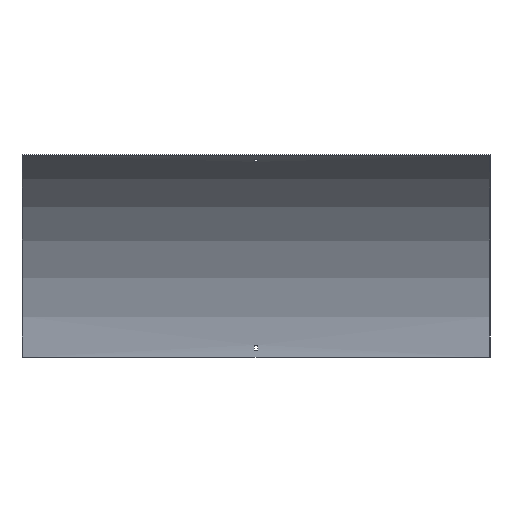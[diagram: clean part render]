
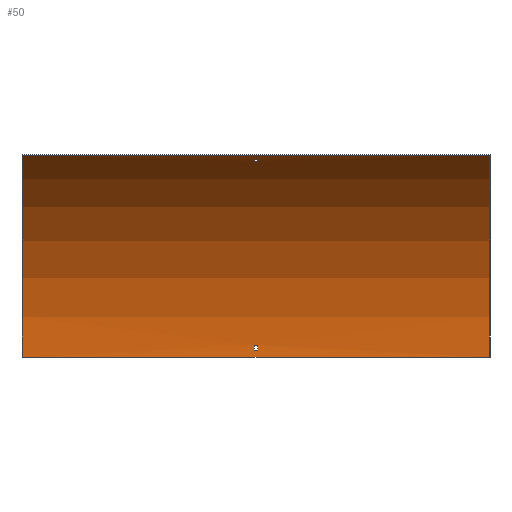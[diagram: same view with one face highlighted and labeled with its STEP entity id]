
A CAD part, front view. The second image highlights one B-rep face of the part: STEP entity #50.
In plain terms, the highlighted cylindrical face has radius 400 mm (diameter 800 mm), a partial arc.
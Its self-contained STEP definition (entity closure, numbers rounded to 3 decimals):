
#2 = AXIS2_PLACEMENT_3D ( 'NONE', #455, #458, #226 ) ;
#5 = VERTEX_POINT ( 'NONE', #153 ) ;
#8 = DIRECTION ( 'NONE',  ( -1., 0., 0. ) ) ;
#13 = VERTEX_POINT ( 'NONE', #302 ) ;
#50 = ADVANCED_FACE ( 'NONE', ( #407, #321, #448 ), #118, .F. ) ;
#59 = VERTEX_POINT ( 'NONE', #81 ) ;
#70 = DIRECTION ( 'NONE',  ( -1., 0., 0. ) ) ;
#71 = CARTESIAN_POINT ( 'NONE',  ( 400., -401.5, 0. ) ) ;
#77 = EDGE_CURVE ( 'NONE', #473, #381, #465, .T. ) ;
#79 = CARTESIAN_POINT ( 'NONE',  ( 401.5, -2.052, 21. ) ) ;
#80 = DIRECTION ( 'NONE',  ( 0., 0., -1. ) ) ;
#81 = CARTESIAN_POINT ( 'NONE',  ( 3.25, -2.052, 21. ) ) ;
#83 = CARTESIAN_POINT ( 'NONE',  ( 3.25, -183.589, 335.432 ) ) ;
#86 = DIRECTION ( 'NONE',  ( -1., 0., 0. ) ) ;
#89 = VERTEX_POINT ( 'NONE', #605 ) ;
#93 = ORIENTED_EDGE ( 'NONE', *, *, #300, .F. ) ;
#101 = DIRECTION ( 'NONE',  ( 0., 0., -1. ) ) ;
#104 = CARTESIAN_POINT ( 'NONE',  ( -3.25, -401.5, 0. ) ) ;
#110 = AXIS2_PLACEMENT_3D ( 'NONE', #71, #254, #80 ) ;
#112 = ORIENTED_EDGE ( 'NONE', *, *, #364, .F. ) ;
#114 = DIRECTION ( 'NONE',  ( 1., 0., 0. ) ) ;
#117 = DIRECTION ( 'NONE',  ( 1., 0., 0. ) ) ;
#118 = CYLINDRICAL_SURFACE ( 'NONE', #2, 400. ) ;
#121 = CARTESIAN_POINT ( 'NONE',  ( 401.5, -191.198, 340.254 ) ) ;
#131 = VERTEX_POINT ( 'NONE', #557 ) ;
#132 = CARTESIAN_POINT ( 'NONE',  ( 401.5, -183.589, 335.432 ) ) ;
#134 = EDGE_CURVE ( 'NONE', #59, #512, #316, .T. ) ;
#140 = EDGE_LOOP ( 'NONE', ( #430, #202, #326, #481 ) ) ;
#142 = CARTESIAN_POINT ( 'NONE',  ( 3.25, -401.5, 0. ) ) ;
#143 = ORIENTED_EDGE ( 'NONE', *, *, #208, .F. ) ;
#147 = VECTOR ( 'NONE', #70, 1000. ) ;
#153 = CARTESIAN_POINT ( 'NONE',  ( 3.25, -191.198, 340.254 ) ) ;
#161 = EDGE_CURVE ( 'NONE', #512, #236, #456, .T. ) ;
#162 = CARTESIAN_POINT ( 'NONE',  ( 400., -201.5, 346.41 ) ) ;
#168 = VECTOR ( 'NONE', #8, 1000. ) ;
#190 = EDGE_LOOP ( 'NONE', ( #581, #143, #287, #195 ) ) ;
#195 = ORIENTED_EDGE ( 'NONE', *, *, #536, .T. ) ;
#196 = DIRECTION ( 'NONE',  ( -1., 0., 0. ) ) ;
#202 = ORIENTED_EDGE ( 'NONE', *, *, #77, .T. ) ;
#208 = EDGE_CURVE ( 'NONE', #131, #13, #593, .T. ) ;
#216 = CARTESIAN_POINT ( 'NONE',  ( -3.25, -183.589, 335.432 ) ) ;
#224 = CARTESIAN_POINT ( 'NONE',  ( -3.25, -191.198, 340.254 ) ) ;
#225 = AXIS2_PLACEMENT_3D ( 'NONE', #142, #335, #524 ) ;
#226 = DIRECTION ( 'NONE',  ( 0., 0., 1. ) ) ;
#236 = VERTEX_POINT ( 'NONE', #552 ) ;
#249 = CIRCLE ( 'NONE', #110, 400. ) ;
#253 = LINE ( 'NONE', #577, #352 ) ;
#254 = DIRECTION ( 'NONE',  ( 1., 0., 0. ) ) ;
#265 = CARTESIAN_POINT ( 'NONE',  ( 401.5, -1.68, 12. ) ) ;
#268 = VECTOR ( 'NONE', #117, 1000. ) ;
#287 = ORIENTED_EDGE ( 'NONE', *, *, #442, .T. ) ;
#290 = DIRECTION ( 'NONE',  ( 1., 0., 0. ) ) ;
#299 = DIRECTION ( 'NONE',  ( -1., 0., 0. ) ) ;
#300 = EDGE_CURVE ( 'NONE', #89, #59, #311, .T. ) ;
#301 = AXIS2_PLACEMENT_3D ( 'NONE', #596, #325, #452 ) ;
#302 = CARTESIAN_POINT ( 'NONE',  ( -400., -1.5, 0. ) ) ;
#303 = VECTOR ( 'NONE', #86, 1000. ) ;
#311 = CIRCLE ( 'NONE', #387, 400. ) ;
#316 = LINE ( 'NONE', #79, #168 ) ;
#321 = FACE_OUTER_BOUND ( 'NONE', #190, .T. ) ;
#323 = CIRCLE ( 'NONE', #399, 400. ) ;
#325 = DIRECTION ( 'NONE',  ( 1., 0., 0. ) ) ;
#326 = ORIENTED_EDGE ( 'NONE', *, *, #415, .T. ) ;
#334 = LINE ( 'NONE', #132, #303 ) ;
#335 = DIRECTION ( 'NONE',  ( -1., 0., 0. ) ) ;
#339 = ORIENTED_EDGE ( 'NONE', *, *, #161, .F. ) ;
#348 = EDGE_CURVE ( 'NONE', #5, #487, #568, .T. ) ;
#352 = VECTOR ( 'NONE', #299, 1000. ) ;
#355 = VERTEX_POINT ( 'NONE', #538 ) ;
#356 = LINE ( 'NONE', #265, #268 ) ;
#364 = EDGE_CURVE ( 'NONE', #236, #89, #356, .T. ) ;
#377 = EDGE_LOOP ( 'NONE', ( #339, #546, #93, #112 ) ) ;
#378 = DIRECTION ( 'NONE',  ( 0., 0., 1. ) ) ;
#379 = CARTESIAN_POINT ( 'NONE',  ( -3.25, -2.052, 21. ) ) ;
#381 = VERTEX_POINT ( 'NONE', #224 ) ;
#387 = AXIS2_PLACEMENT_3D ( 'NONE', #579, #290, #390 ) ;
#390 = DIRECTION ( 'NONE',  ( 0., 0., -1. ) ) ;
#399 = AXIS2_PLACEMENT_3D ( 'NONE', #479, #584, #101 ) ;
#407 = FACE_BOUND ( 'NONE', #377, .T. ) ;
#415 = EDGE_CURVE ( 'NONE', #381, #5, #507, .T. ) ;
#430 = ORIENTED_EDGE ( 'NONE', *, *, #515, .T. ) ;
#442 = EDGE_CURVE ( 'NONE', #131, #572, #249, .T. ) ;
#448 = FACE_BOUND ( 'NONE', #140, .T. ) ;
#452 = DIRECTION ( 'NONE',  ( 0., 1., 0. ) ) ;
#455 = CARTESIAN_POINT ( 'NONE',  ( 401.5, -401.5, 0. ) ) ;
#456 = CIRCLE ( 'NONE', #527, 400. ) ;
#458 = DIRECTION ( 'NONE',  ( -1., 0., 0. ) ) ;
#465 = CIRCLE ( 'NONE', #301, 400. ) ;
#473 = VERTEX_POINT ( 'NONE', #216 ) ;
#479 = CARTESIAN_POINT ( 'NONE',  ( -400., -401.5, 0. ) ) ;
#481 = ORIENTED_EDGE ( 'NONE', *, *, #348, .T. ) ;
#487 = VERTEX_POINT ( 'NONE', #83 ) ;
#503 = VECTOR ( 'NONE', #114, 1000. ) ;
#507 = LINE ( 'NONE', #121, #503 ) ;
#512 = VERTEX_POINT ( 'NONE', #379 ) ;
#515 = EDGE_CURVE ( 'NONE', #487, #473, #334, .T. ) ;
#524 = DIRECTION ( 'NONE',  ( 0., 0., 1. ) ) ;
#527 = AXIS2_PLACEMENT_3D ( 'NONE', #104, #196, #378 ) ;
#536 = EDGE_CURVE ( 'NONE', #572, #355, #253, .T. ) ;
#538 = CARTESIAN_POINT ( 'NONE',  ( -400., -201.5, 346.41 ) ) ;
#546 = ORIENTED_EDGE ( 'NONE', *, *, #134, .F. ) ;
#552 = CARTESIAN_POINT ( 'NONE',  ( -3.25, -1.68, 12. ) ) ;
#557 = CARTESIAN_POINT ( 'NONE',  ( 400., -1.5, 0. ) ) ;
#564 = EDGE_CURVE ( 'NONE', #13, #355, #323, .T. ) ;
#568 = CIRCLE ( 'NONE', #225, 400. ) ;
#572 = VERTEX_POINT ( 'NONE', #162 ) ;
#577 = CARTESIAN_POINT ( 'NONE',  ( 400., -201.5, 346.41 ) ) ;
#579 = CARTESIAN_POINT ( 'NONE',  ( 3.25, -401.5, 0. ) ) ;
#581 = ORIENTED_EDGE ( 'NONE', *, *, #564, .F. ) ;
#583 = CARTESIAN_POINT ( 'NONE',  ( 400., -1.5, 0. ) ) ;
#584 = DIRECTION ( 'NONE',  ( 1., 0., 0. ) ) ;
#593 = LINE ( 'NONE', #583, #147 ) ;
#596 = CARTESIAN_POINT ( 'NONE',  ( -3.25, -401.5, 0. ) ) ;
#605 = CARTESIAN_POINT ( 'NONE',  ( 3.25, -1.68, 12. ) ) ;
